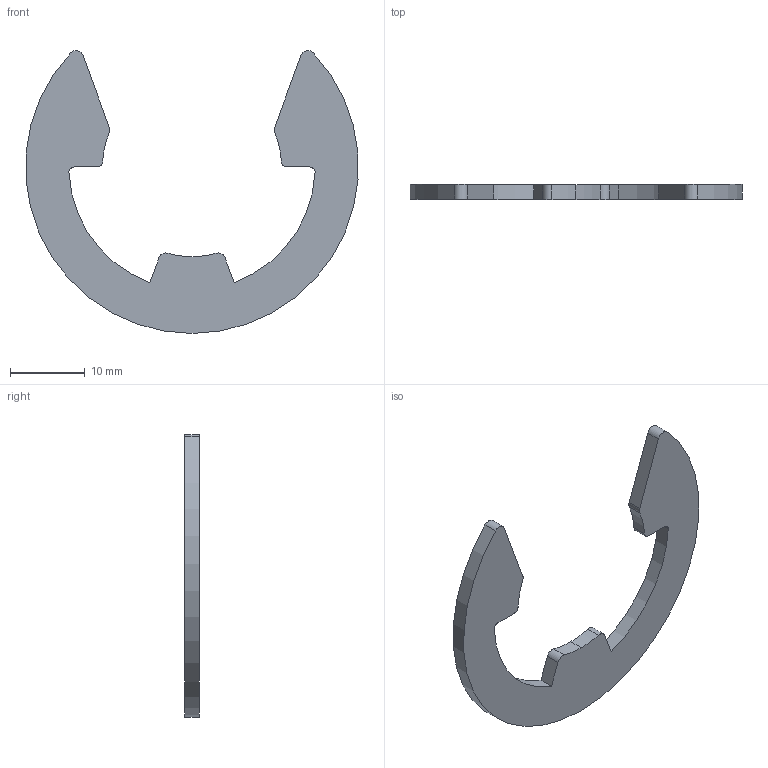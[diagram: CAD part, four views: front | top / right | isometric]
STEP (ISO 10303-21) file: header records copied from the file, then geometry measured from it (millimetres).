
FILE_DESCRIPTION (( 'STEP AP203' ), '1' );
FILE_NAME ('P0382.240-PH.step', '2019-07-25T21:01:53', ( '' ), ( '' ), 'SwSTEP 2.0', 'SolidWorks 2017', '' );
FILE_SCHEMA (( 'CONFIG_CONTROL_DESIGN' ));
Length unit declared in the file: millimetre
Products named in the file (1): P0382.240-PH
Bounding box: 44.47 x 2 x 37.89 mm (x, y, z)
Volume: 1283.4 mm3; surface area: 1691.2 mm2
Topology: 1 solids, 1 shells, 26 faces, 72 edges, 48 vertices
Faces by surface type: cylinder 18, plane 8
Entity records: 929 total; most frequent: DIRECTION 162, CARTESIAN_POINT 147, ORIENTED_EDGE 144, EDGE_CURVE 72, AXIS2_PLACEMENT_3D 63, VERTEX_POINT 48, CIRCLE 36, LINE 36
